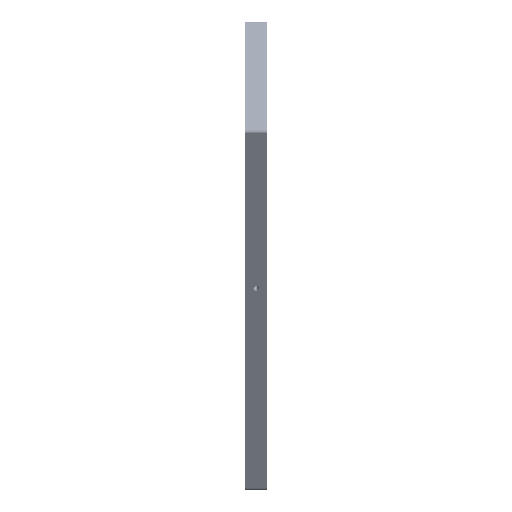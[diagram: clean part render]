
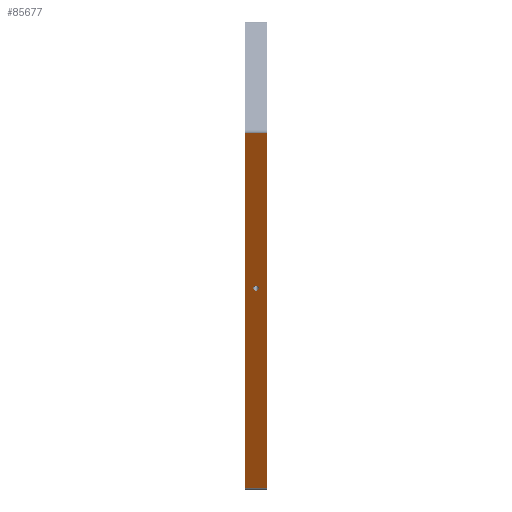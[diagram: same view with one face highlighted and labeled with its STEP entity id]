
A CAD part, left-side view. The second image highlights one B-rep face of the part: STEP entity #85677.
In plain terms, the highlighted planar face has unit normal (-0.866, 0, -0.5).
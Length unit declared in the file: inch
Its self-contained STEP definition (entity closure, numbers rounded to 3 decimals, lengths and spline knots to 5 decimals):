
#77557 = VERTEX_POINT ( 'NONE', #115861 ) ;
#77567 = EDGE_CURVE ( 'NONE', #77557, #77653, #115848, .T. ) ;
#77653 = VERTEX_POINT ( 'NONE', #116091 ) ;
#85677 = ADVANCED_FACE ( 'NONE', ( #129288, #129287 ), #129286, .F. ) ;
#85680 = EDGE_LOOP ( 'NONE', ( #85683, #85795 ) ) ;
#85683 = ORIENTED_EDGE ( 'NONE', *, *, #85685, .F. ) ;
#85685 = EDGE_CURVE ( 'NONE', #77653, #77557, #129341, .T. ) ;
#85686 = EDGE_LOOP ( 'NONE', ( #85797, #85804, #85809, #85816 ) ) ;
#85795 = ORIENTED_EDGE ( 'NONE', *, *, #77567, .F. ) ;
#85797 = ORIENTED_EDGE ( 'NONE', *, *, #85800, .T. ) ;
#85800 = EDGE_CURVE ( 'NONE', #85802, #85803, #129419, .T. ) ;
#85802 = VERTEX_POINT ( 'NONE', #129412 ) ;
#85803 = VERTEX_POINT ( 'NONE', #129411 ) ;
#85804 = ORIENTED_EDGE ( 'NONE', *, *, #85805, .T. ) ;
#85805 = EDGE_CURVE ( 'NONE', #85803, #85808, #129410, .T. ) ;
#85808 = VERTEX_POINT ( 'NONE', #129459 ) ;
#85809 = ORIENTED_EDGE ( 'NONE', *, *, #85811, .T. ) ;
#85811 = EDGE_CURVE ( 'NONE', #85808, #85814, #129457, .T. ) ;
#85814 = VERTEX_POINT ( 'NONE', #129453 ) ;
#85816 = ORIENTED_EDGE ( 'NONE', *, *, #85818, .T. ) ;
#85818 = EDGE_CURVE ( 'NONE', #85814, #85802, #129452, .T. ) ;
#115841 = DIRECTION ( 'NONE',  ( -0.5, 0., 0.866 ) ) ;
#115843 = DIRECTION ( 'NONE',  ( -0.866, 0., -0.5 ) ) ;
#115845 = CARTESIAN_POINT ( 'NONE',  ( -24.14647, 1.5, -9.89952 ) ) ;
#115847 = AXIS2_PLACEMENT_3D ( 'NONE', #115845, #115843, #115841 ) ;
#115848 = CIRCLE ( 'NONE', #115847, 0.375 ) ;
#115861 = CARTESIAN_POINT ( 'NONE',  ( -23.95897, 1.5, -10.22428 ) ) ;
#116091 = CARTESIAN_POINT ( 'NONE',  ( -24.33397, 1.5, -9.57476 ) ) ;
#129280 = DIRECTION ( 'NONE',  ( 0.5, 0., -0.866 ) ) ;
#129282 = DIRECTION ( 'NONE',  ( 0.866, 0., 0.5 ) ) ;
#129283 = CARTESIAN_POINT ( 'NONE',  ( -36.29294, 3., 11.13878 ) ) ;
#129284 = CARTESIAN_POINT ( 'NONE',  ( -24.14647, 1.5, -9.89952 ) ) ;
#129285 = AXIS2_PLACEMENT_3D ( 'NONE', #129283, #129282, #129280 ) ;
#129286 = PLANE ( 'NONE',  #129285 ) ;
#129287 = FACE_OUTER_BOUND ( 'NONE', #85686, .T. ) ;
#129288 = FACE_BOUND ( 'NONE', #85680, .T. ) ;
#129338 = DIRECTION ( 'NONE',  ( -0.5, 0., 0.866 ) ) ;
#129339 = DIRECTION ( 'NONE',  ( -0.866, 0., -0.5 ) ) ;
#129340 = AXIS2_PLACEMENT_3D ( 'NONE', #129284, #129339, #129338 ) ;
#129341 = CIRCLE ( 'NONE', #129340, 0.375 ) ;
#129407 = DIRECTION ( 'NONE',  ( 0.5, 0., -0.866 ) ) ;
#129408 = VECTOR ( 'NONE', #129407, 39.37008 ) ;
#129409 = CARTESIAN_POINT ( 'NONE',  ( -36.29294, 2.94, 11.13878 ) ) ;
#129410 = LINE ( 'NONE', #129409, #129408 ) ;
#129411 = CARTESIAN_POINT ( 'NONE',  ( -36.1486, 2.94, 10.88878 ) ) ;
#129412 = CARTESIAN_POINT ( 'NONE',  ( -36.1486, 0.06, 10.88878 ) ) ;
#129413 = DIRECTION ( 'NONE',  ( 0., 1., 0. ) ) ;
#129414 = VECTOR ( 'NONE', #129413, 39.37008 ) ;
#129415 = CARTESIAN_POINT ( 'NONE',  ( -36.1486, 3., 10.88878 ) ) ;
#129419 = LINE ( 'NONE', #129415, #129414 ) ;
#129449 = DIRECTION ( 'NONE',  ( -0.5, 0., 0.866 ) ) ;
#129450 = VECTOR ( 'NONE', #129449, 39.37008 ) ;
#129451 = CARTESIAN_POINT ( 'NONE',  ( -36.1486, 0.06, 10.88878 ) ) ;
#129452 = LINE ( 'NONE', #129451, #129450 ) ;
#129453 = CARTESIAN_POINT ( 'NONE',  ( -8.64434, 0.06, -36.75 ) ) ;
#129454 = DIRECTION ( 'NONE',  ( 0., -1., 0. ) ) ;
#129455 = VECTOR ( 'NONE', #129454, 39.37008 ) ;
#129456 = CARTESIAN_POINT ( 'NONE',  ( -8.64434, 3., -36.75 ) ) ;
#129457 = LINE ( 'NONE', #129456, #129455 ) ;
#129459 = CARTESIAN_POINT ( 'NONE',  ( -8.64434, 2.94, -36.75 ) ) ;
